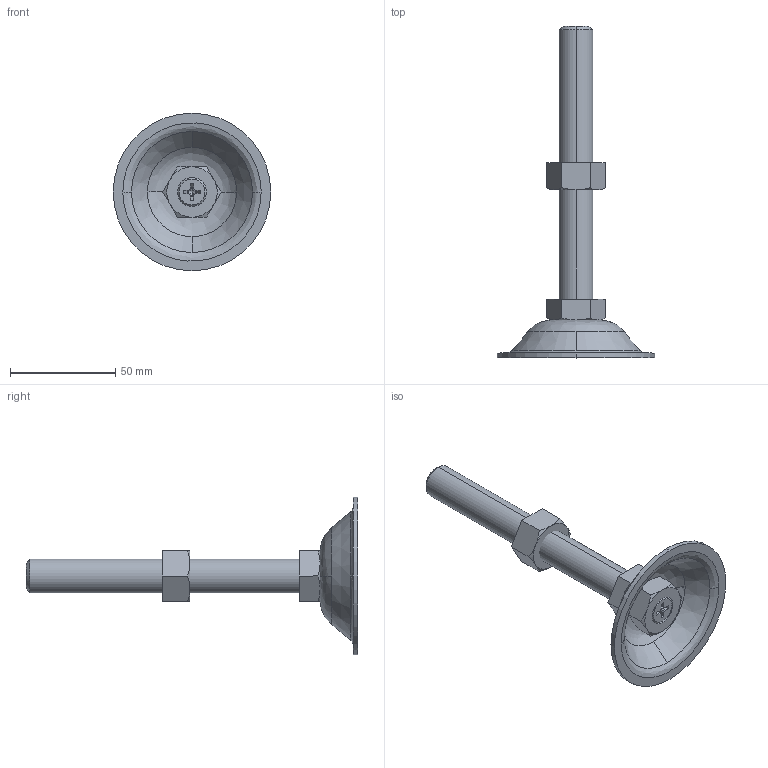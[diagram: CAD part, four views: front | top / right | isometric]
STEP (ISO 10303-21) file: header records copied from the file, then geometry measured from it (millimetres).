
FILE_DESCRIPTION (( 'STEP AP203' ), '1' );
FILE_NAME ('EA13-16130.STEP', '2013-09-20T05:35:49', ( 'SDS' ), ( 'SDS' ), 'SwSTEP 2.0', 'SolidWorks 2002296', '' );
FILE_SCHEMA (( 'CONFIG_CONTROL_DESIGN' ));
Length unit declared in the file: millimetre
Products named in the file (5): EA13-16130; EA13-161301_蹬怮椔; EA13-161302_蹬怮椔; EA13-161303_蹬怮椔; EA13-161304_蹬怮椔
Assembly tree (4 placements, depth 2):
  EA13-16130
    EA13-161303_蹬怮椔
    EA13-161301_蹬怮椔
    EA13-161302_蹬怮椔
    EA13-161304_蹬怮椔
Bounding box: 75 x 158 x 75 mm (x, y, z)
Volume: 53421.5 mm3; surface area: 24237.5 mm2
Topology: 4 solids, 4 shells, 123 faces, 281 edges, 169 vertices
Faces by surface type: plane 68, cone 34, cylinder 12, bspline 9
Entity records: 4342 total; most frequent: CARTESIAN_POINT 1208, ORIENTED_EDGE 558, DIRECTION 516, EDGE_CURVE 279, AXIS2_PLACEMENT_3D 197, VERTEX_POINT 169, EDGE_LOOP 134, ADVANCED_FACE 123
